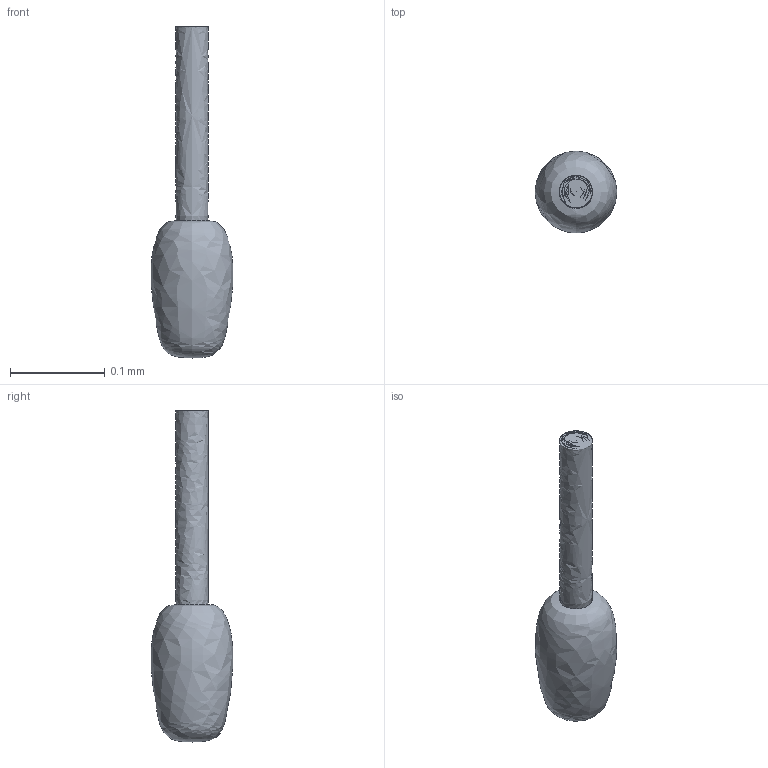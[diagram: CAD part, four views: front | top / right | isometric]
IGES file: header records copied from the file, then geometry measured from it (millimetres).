
Global section: file name: /home/lore/2005/xcmodel_3.2/surfaces/PiedeCassa.igs; native system: XCMODEL ver.3.0 Universita' di Bologna; preprocessor: formato IGES Nov. 2001; date: 060219.233930; units: millimetre
Bounding box: 0.09 x 0.09 x 0.35 mm (x, y, z)
Surface area: 0.1 mm2 (no closed solid volume)
Topology: 0 solids, 0 shells, 2 faces, 6 edges, 4 vertices
Faces by surface type: bspline 2
